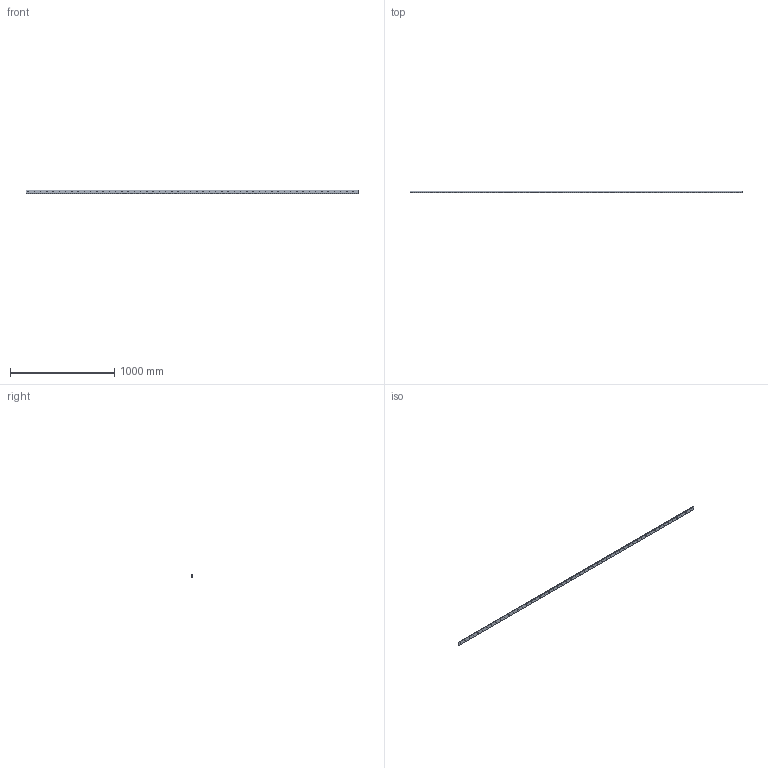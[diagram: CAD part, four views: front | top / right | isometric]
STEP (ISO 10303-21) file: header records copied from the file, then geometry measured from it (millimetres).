
FILE_DESCRIPTION(('golf model'),'2;1');
FILE_NAME('golf','',(''),(''),'golf_step_io','golf','');
FILE_SCHEMA(('AUTOMOTIVE_DESIGN { 1 0 10303 214 1 1 1 1 }'));
Length unit declared in the file: millimetre
Products named in the file (2): ASSEMBLY; bed.rail_land_bottom
Assembly tree (1 placements, depth 2):
  ASSEMBLY
    bed.rail_land_bottom
Bounding box: 3186 x 15.06 x 31.28 mm (x, y, z)
Volume: 945393.5 mm3; surface area: 261723.9 mm2
Topology: 1 solids, 1 shells, 59 faces, 171 edges, 114 vertices
Faces by surface type: cylinder 53, plane 6
Full cylindrical faces by diameter (mm): 5 x53
Entity records: 1992 total; most frequent: DIRECTION 346, CARTESIAN_POINT 293, ORIENTED_EDGE 236, EDGE_LOOP 218, FACE_BOUND 216, AXIS2_PLACEMENT_3D 167, EDGE_CURVE 118, VERTEX_POINT 114
